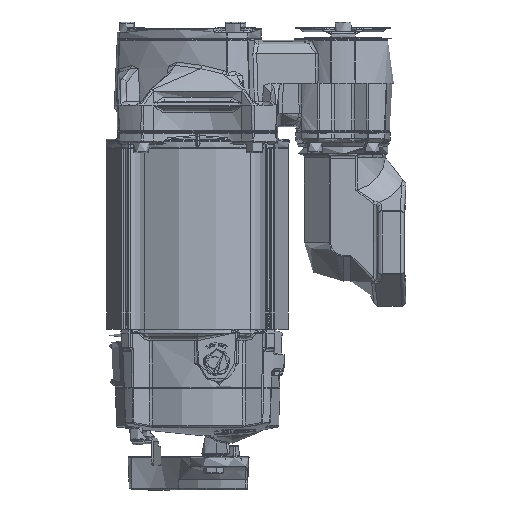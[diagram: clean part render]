
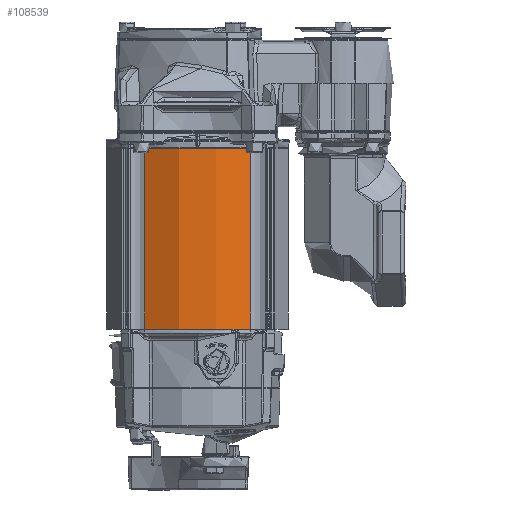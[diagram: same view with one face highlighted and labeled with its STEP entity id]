
A CAD part, left-side view. The second image highlights one B-rep face of the part: STEP entity #108539.
In plain terms, the highlighted cylindrical face has radius 74.93 mm (diameter 149.86 mm), a partial arc.
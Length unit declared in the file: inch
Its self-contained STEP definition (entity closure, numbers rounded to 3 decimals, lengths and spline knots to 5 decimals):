
#14877=FACE_OUTER_BOUND('',#21456,.T.);
#21456=EDGE_LOOP('',(#84254,#84255,#84256,#84257));
#32251=CIRCLE('',#115693,2.95);
#32639=CIRCLE('',#116301,2.95);
#38506=LINE('',#239500,#43070);
#38507=LINE('',#239502,#43071);
#43070=VECTOR('',#132087,0.3937);
#43071=VECTOR('',#132090,0.3937);
#48951=VERTEX_POINT('',#221443);
#48952=VERTEX_POINT('',#221445);
#49755=VERTEX_POINT('',#239383);
#49756=VERTEX_POINT('',#239385);
#60778=EDGE_CURVE('',#48952,#48951,#32251,.T.);
#62078=EDGE_CURVE('',#49756,#49755,#32639,.T.);
#62137=EDGE_CURVE('',#48951,#49756,#38506,.T.);
#62138=EDGE_CURVE('',#48952,#49755,#38507,.T.);
#84254=ORIENTED_EDGE('',*,*,#62078,.T.);
#84255=ORIENTED_EDGE('',*,*,#62138,.F.);
#84256=ORIENTED_EDGE('',*,*,#60778,.T.);
#84257=ORIENTED_EDGE('',*,*,#62137,.T.);
#105432=CYLINDRICAL_SURFACE('',#116358,2.95);
#108539=ADVANCED_FACE('',(#14877),#105432,.T.);
#115693=AXIS2_PLACEMENT_3D('',#221446,#130367,#130368);
#116301=AXIS2_PLACEMENT_3D('',#239386,#131919,#131920);
#116358=AXIS2_PLACEMENT_3D('',#239501,#132088,#132089);
#130367=DIRECTION('center_axis',(0.,0.,
-1.));
#130368=DIRECTION('ref_axis',(1.,0.,0.));
#131919=DIRECTION('center_axis',(0.,0.,
1.));
#131920=DIRECTION('ref_axis',(1.,0.,0.));
#132087=DIRECTION('',(0.,0.,-1.));
#132088=DIRECTION('center_axis',(0.,0.,
-1.));
#132089=DIRECTION('ref_axis',(-1.,0.,0.));
#132090=DIRECTION('',(0.,0.,-1.));
#221443=CARTESIAN_POINT('',(-2.4228,1.68301,-2.4985));
#221445=CARTESIAN_POINT('',(-2.4228,-1.68301,-2.4985));
#221446=CARTESIAN_POINT('Origin',(0.,0.,
-2.4985));
#239383=CARTESIAN_POINT('',(-2.4228,-1.68301,-8.2485));
#239385=CARTESIAN_POINT('',(-2.4228,1.68301,-8.2485));
#239386=CARTESIAN_POINT('Origin',(0.,0.,
-8.2485));
#239500=CARTESIAN_POINT('',(-2.4228,1.68301,-2.4985));
#239501=CARTESIAN_POINT('Origin',(0.,0.,
-2.4985));
#239502=CARTESIAN_POINT('',(-2.4228,-1.68301,-2.4985));
